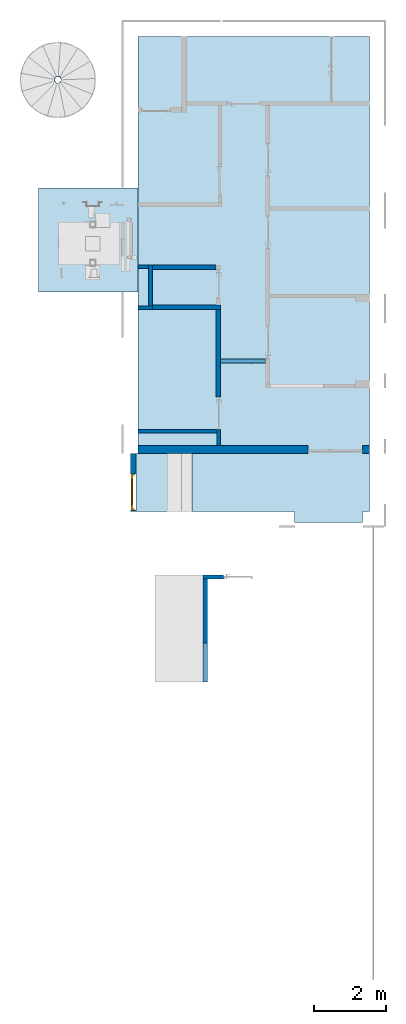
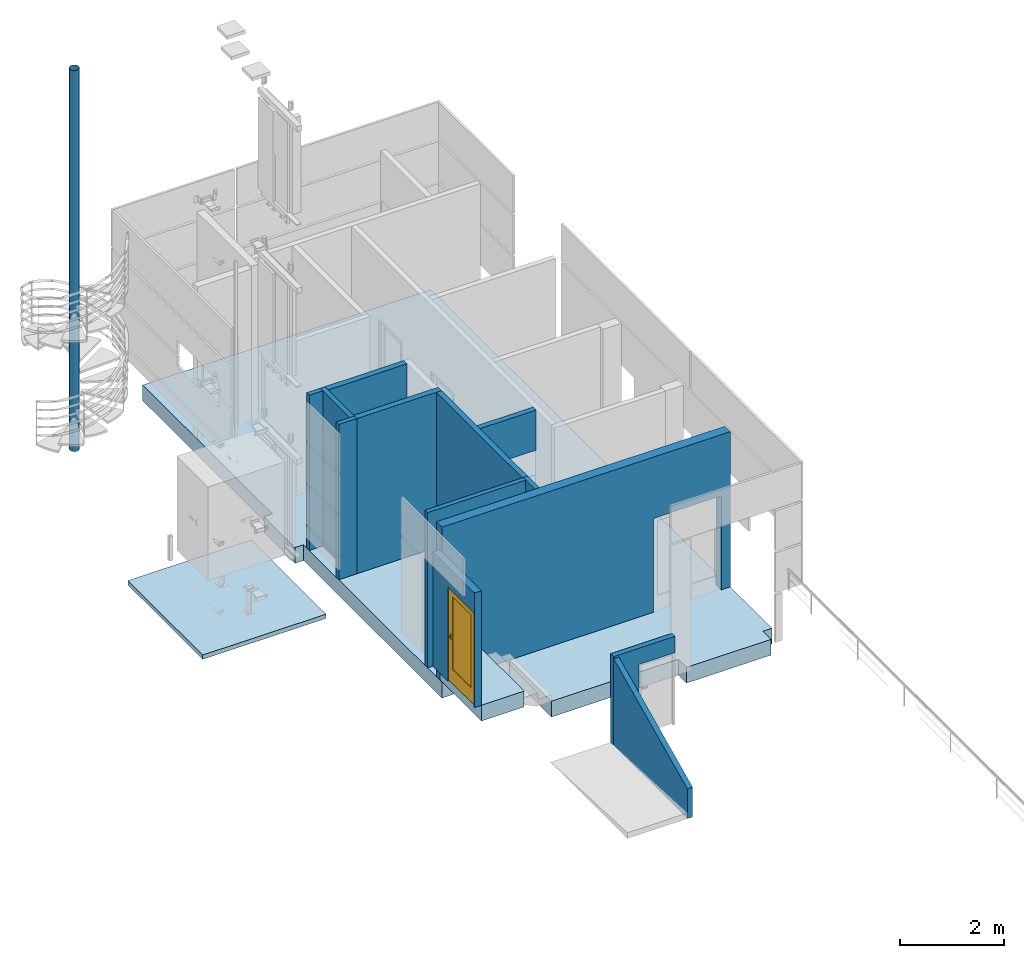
# One storey, part 1 of 15: 13 walls, 3 slabs, 1 column, 1 door, 11 openings.
"""IFC2X3 building model written with IfcOpenShell, lengths in millimetres."""

from ifc_helpers import new_model, entity, si_unit, converted_unit, derived_unit, direction, frame, frame_2d, origin, place, context, subcontext, project, spatial, polyline, rectangle, hollow_circle, outline, extrude, clip, halfspace, faceted_brep, source, transform, mapped, material, material_list, layer, layer_set, layer_usage, type_object, type_shapes, element, fill, save


model = new_model("IFC2X3")

# Units and contexts
model_context = context("Model", 3, precision=0.01, world=origin(), true_north=direction((6.12303176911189e-17, 1.0)))
body_context = subcontext(model_context, "Body", "Model", "MODEL_VIEW")
ifc_project = project(units=[si_unit("LENGTHUNIT", "METRE", prefix="MILLI"), si_unit("AREAUNIT", "SQUARE_METRE"), si_unit("VOLUMEUNIT", "CUBIC_METRE"), converted_unit("PLANEANGLEUNIT", "DEGREE", entity("IfcRatioMeasure", 0.0174532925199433), si_unit("PLANEANGLEUNIT", "RADIAN"), dimensions=[0, 0, 0, 0, 0, 0, 0]), si_unit("MASSUNIT", "GRAM", prefix="KILO"), derived_unit("MASSDENSITYUNIT", [(si_unit("MASSUNIT", "GRAM", prefix="KILO"), 1), (si_unit("LENGTHUNIT", "METRE"), -3)]), si_unit("TIMEUNIT", "SECOND"), si_unit("FREQUENCYUNIT", "HERTZ"), si_unit("THERMODYNAMICTEMPERATUREUNIT", "DEGREE_CELSIUS"), derived_unit("THERMALTRANSMITTANCEUNIT", [(si_unit("MASSUNIT", "GRAM", prefix="KILO"), 1), (si_unit("THERMODYNAMICTEMPERATUREUNIT", "KELVIN"), -1), (si_unit("TIMEUNIT", "SECOND"), -3)]), derived_unit("VOLUMETRICFLOWRATEUNIT", [(si_unit("LENGTHUNIT", "METRE"), 3), (si_unit("TIMEUNIT", "SECOND"), -1)]), si_unit("ELECTRICCURRENTUNIT", "AMPERE"), si_unit("ELECTRICVOLTAGEUNIT", "VOLT"), si_unit("POWERUNIT", "WATT"), si_unit("FORCEUNIT", "NEWTON", prefix="KILO"), si_unit("ILLUMINANCEUNIT", "LUX"), si_unit("LUMINOUSFLUXUNIT", "LUMEN"), si_unit("LUMINOUSINTENSITYUNIT", "CANDELA"), derived_unit("USERDEFINED", [(si_unit("MASSUNIT", "GRAM", prefix="KILO"), -1), (si_unit("LENGTHUNIT", "METRE"), -2), (si_unit("TIMEUNIT", "SECOND"), 3), (si_unit("LUMINOUSFLUXUNIT", "LUMEN"), 1)]), derived_unit("LINEARVELOCITYUNIT", [(si_unit("LENGTHUNIT", "METRE"), 1), (si_unit("TIMEUNIT", "SECOND"), -1)]), si_unit("PRESSUREUNIT", "PASCAL"), derived_unit("USERDEFINED", [(si_unit("LENGTHUNIT", "METRE"), -2), (si_unit("MASSUNIT", "GRAM", prefix="KILO"), 1), (si_unit("TIMEUNIT", "SECOND"), -2)])], contexts=[model_context])

# Site, building, storey
site_placement = place(None, frame((-151.875543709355, 2715.0, 0.0)))
site = spatial("IfcSite", under=ifc_project, at=site_placement, Name="Surface", CompositionType="ELEMENT")
building_placement = place(site_placement, origin())
building = spatial("IfcBuilding", under=site, at=building_placement, CompositionType="ELEMENT")
storey_placement = place(building_placement, frame((0.0, 0.0, -135.0)))
storey = spatial("IfcBuildingStorey", under=building, at=storey_placement, Name="uus 1 korrus", CompositionType="ELEMENT", Elevation=-134.99999999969)

# Column
ifc_material_1 = material(Name="Metal - Steel - ASTM A53")
column_type = type_object("IfcColumnType", Name="D200", PredefinedType="COLUMN")
shared_shape_1 = source(origin(), body_context, "Body", "SweptSolid", [
    extrude(hollow_circle(Radius=99.9999999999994, WallThickness=6.05234374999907, at=frame_2d((-2.55787167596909e-15, 4.5019790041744e-13), x_axis=(1.0, 0.0))), frame((0.0, 0.0, -135.0)), (0.0, 0.0, 1.0), 8934.99999999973),
])
type_shapes(column_type, [shared_shape_1])
column_placement = place(storey_placement, frame((29794.6975216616, 25117.4690984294, 135.0), z_axis=(0.0, 0.0, 1.0), x_axis=(-0.990352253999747, -0.138572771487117, 0.0)))
element("IfcColumn", 1, at=column_placement, inside=storey, type_object=column_type, material=ifc_material_1, Name="Pipe-Column:D200", ObjectType="D200", context=body_context, shape_type="MappedRepresentation", body=[
    mapped(shared_shape_1, transform((0.0, 0.0, 0.0), scale=1.0)),
])

# Slabs
ifc_material_2 = material(Name="Viimistlus_kelder")
ifc_layer_1 = layer(ifc_material_2, 20.0)
ifc_material_3 = material(Name="Betoon")
ifc_layer_2 = layer(ifc_material_3, 100.0)
ifc_material_4 = material(Name="__Soojustus EPS")
ifc_layer_3 = layer(ifc_material_4, 150.0)
ifc_material_5 = material(Name="Aluspinnas")
ifc_layer_4 = layer(ifc_material_5, 100.0)
ifc_layer_set_1 = layer_set([ifc_layer_1, ifc_layer_2, ifc_layer_3, ifc_layer_4], Name="Floor:P-2.1_Esimese korruse põrand juurdeehitusel")
ifc_layer_usage_1 = layer_usage(ifc_layer_set_1, "AXIS3", "POSITIVE", 0.0)
slab_1_placement = place(storey_placement, origin())
element("IfcSlab", 2, at=slab_1_placement, inside=storey, material=ifc_layer_usage_1, Name="Floor:P-2.1_Esimese korruse põrand juurdeehitusel", ObjectType="Floor:P-2.1_Esimese korruse põrand juurdeehitusel", PredefinedType="FLOOR", context=body_context, shape_type="SweptSolid", body=[
    extrude(outline(polyline([(2716.28571063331, -2792.85714285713), (3916.2857104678, -2792.85714285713), (3916.2857104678, -2602.85714285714), (8896.28573702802, -2602.85714285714), (8896.28573702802, 3792.14285714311), (-4203.71428953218, 3792.14285714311), (-4203.71428953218, 3592.14285714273), (-4517.71428953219, 3592.14285714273), (-4517.71428953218, 1717.14285714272), (-4203.71428953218, 1717.14285714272), (-4203.71428953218, -1102.85714285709), (-2603.71428953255, -1102.85714285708), (-2603.71428953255, -2602.85714285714), (2716.28571063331, -2602.85714285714), (2716.28571063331, -2792.85714285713)])), frame((34604.4734110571, 17413.7142895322, 0.0), z_axis=(0.0, 0.0, -1.0), x_axis=(0.0, 1.0, 0.0)), (0.0, 0.0, 1.0), 370.0),
])
ifc_layer_usage_2 = layer_usage(ifc_layer_set_1, "AXIS3", "POSITIVE", 0.0)
slab_2_placement = place(storey_placement, origin())
element("IfcSlab", 3, at=slab_2_placement, inside=storey, material=ifc_layer_usage_2, Name="Floor:P-2.1_Esimese korruse põrand juurdeehitusel", ObjectType="Floor:P-2.1_Esimese korruse põrand juurdeehitusel", PredefinedType="FLOOR", context=body_context, shape_type="SweptSolid", body=[
    extrude(rectangle(XDim=1600.00000000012, YDim=949.993077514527, at=frame_2d((1.08002495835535e-12, 0.0), x_axis=(1.0, 0.0))), frame((32426.6128069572, 14010.0, 450.0), z_axis=(0.0, 0.0, -1.0), x_axis=(0.0, 1.0, 0.0)), (0.0, 0.0, 1.0), 370.0),
])
ifc_layer_5 = layer(ifc_material_3, 100.0)
ifc_layer_set_2 = layer_set([ifc_layer_5], Name="Floor:Lifti põrand")
ifc_layer_usage_3 = layer_usage(ifc_layer_set_2, "AXIS3", "POSITIVE", 0.0)
slab_3_placement = place(storey_placement, origin())
element("IfcSlab", 4, at=slab_3_placement, inside=storey, material=ifc_layer_usage_3, Name="Floor:Lifti põrand", ObjectType="Floor:Lifti põrand", PredefinedType="FLOOR", context=body_context, shape_type="SweptSolid", body=[
    extrude(rectangle(XDim=2878.0, YDim=2738.99850106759, at=frame_2d((0.0, 2.1600499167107e-12), x_axis=(1.0, 0.0))), frame((30632.1170176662, 20700.0, -1100.0), z_axis=(0.0, 0.0, -1.0), x_axis=(0.0, 1.0, 0.0)), (0.0, 0.0, 1.0), 100.0),
])

# Wall, openings
ifc_material_6 = material(Name="__Kips GN13_tava")
ifc_layer_6 = layer(ifc_material_6, 12.5)
ifc_layer_7 = layer(ifc_material_6, 12.5)
ifc_layer_8 = layer(ifc_material_4, 66.0)
ifc_layer_9 = layer(ifc_material_6, 12.5)
ifc_layer_10 = layer(ifc_material_6, 12.5)
ifc_layer_set_3 = layer_set([ifc_layer_6, ifc_layer_7, ifc_layer_8, ifc_layer_9, ifc_layer_10], Name="Basic Wall:SS-3_Kipssein tava ruumide vahel")
ifc_layer_usage_4 = layer_usage(ifc_layer_set_3, "AXIS2", "NEGATIVE", 58.0)
wall_type_1 = type_object("IfcWallType", Name="Basic Wall:SS-3_Kipssein tava ruumide vahel", PredefinedType="STANDARD", material=ifc_layer_set_3)
wall_1_placement = place(storey_placement, frame((34223.0849816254, 15470.0, 0.0), z_axis=(0.0, 0.0, 1.0), x_axis=(0.0, 1.0, 0.0)))
wall_1 = element("IfcWallStandardCase", 5, at=wall_1_placement, inside=storey, type_object=wall_type_1, material=ifc_layer_usage_4, Name="Basic Wall:SS-3_Kipssein tava ruumide vahel", ObjectType="Basic Wall:SS-3_Kipssein tava ruumide vahel", context=body_context, shape_type="SweptSolid", body=[
    extrude(rectangle(XDim=3307.97100308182, YDim=116.0, at=frame_2d((1653.98550154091, 3.94351218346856e-13), x_axis=(-1.0, 0.0))), origin(), (0.0, 0.0, 1.0), 3640.0),
])
opening_1_placement = place(wall_1_placement, origin())
element("IfcOpeningElement", 6, at=opening_1_placement, cuts=wall_1, Name="Basic Wall:SS-3_Kipssein tava ruumide vahel", ObjectType="Opening", context=body_context, shape_type="SweptSolid", body=[
    extrude(rectangle(XDim=2099.99999999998, YDim=116.0, at=frame_2d((0.0, 1.13686837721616e-13), x_axis=(0.0, 1.0))), frame((1890.61788269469, -1307.74749360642, 1050.0), z_axis=(0.0, 1.0, 0.0), x_axis=(1.0, 0.0, 0.0)), (0.0, 0.0, 1.0), 1250.0),
])
opening_2_placement = place(wall_1_placement, origin())
element("IfcOpeningElement", 7, at=opening_2_placement, cuts=wall_1, Name="Basic Wall:SS-3_Kipssein tava ruumide vahel", ObjectType="Opening", context=body_context, shape_type="SweptSolid", body=[
    extrude(rectangle(XDim=599.999999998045, YDim=116.0, at=frame_2d((0.0, -1.4210854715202e-13), x_axis=(0.0, 1.0))), frame((1890.61788269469, -1307.74749360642, 2400.0), z_axis=(0.0, 1.0, 0.0), x_axis=(1.0, 0.0, 0.0)), (0.0, 0.0, 1.0), 1250.0),
])
opening_3_placement = place(wall_1_placement, frame((900.0, 58.0, 0.0)))
element("IfcOpeningElement", 8, at=opening_3_placement, cuts=wall_1, Name="Ühepoolsed:SU-02.:1", ObjectType="Opening", context=body_context, shape_type="SweptSolid", body=[
    extrude(rectangle(XDim=2099.99999999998, YDim=900.0, at=frame_2d((1049.99999999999, 450.0), x_axis=(1.0, 0.0))), frame((0.0, 0.0, 0.0), z_axis=(0.0, -1.0, 0.0), x_axis=(0.0, 0.0, 1.0)), (0.0, 0.0, 1.0), 116.0),
])

ifc_layer_usage_5 = layer_usage(ifc_layer_set_3, "AXIS2", "NEGATIVE", 58.0)
wall_2_placement = place(storey_placement, frame((35530.8324752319, 17360.6178826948, 2700.0), z_axis=(0.0, 0.0, 1.0), x_axis=(-1.0, 0.0, 0.0)))
wall_2 = element("IfcWallStandardCase", 9, at=wall_2_placement, inside=storey, type_object=wall_type_1, material=ifc_layer_usage_5, Name="Basic Wall:SS-3_Kipssein tava ruumide vahel", ObjectType="Basic Wall:SS-3_Kipssein tava ruumide vahel", context=body_context, shape_type="SweptSolid", body=[
    extrude(rectangle(XDim=1249.74749360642, YDim=116.0, at=frame_2d((624.873746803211, -1.06581410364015e-14), x_axis=(-1.0, 0.0))), origin(), (0.0, 0.0, 1.0), 940.000000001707),
])
opening_4_placement = place(wall_2_placement, frame((0.0, -58.0, -2700.0)))
element("IfcOpeningElement", 10, at=opening_4_placement, cuts=wall_2, Name="Kahepoolsed:SU-24:1", ObjectType="Opening", context=body_context, shape_type="SweptSolid", body=[
    extrude(rectangle(XDim=2099.99999999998, YDim=1250.0, at=frame_2d((1049.99999999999, 625.000000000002), x_axis=(1.0, 0.0))), frame((0.0, 0.0, 0.0), z_axis=(0.0, 1.0, 0.0), x_axis=(0.0, 0.0, 1.0)), (0.0, 0.0, 1.0), 116.0),
])
opening_5_placement = place(wall_2_placement, frame((0.0, -58.0, -600.0)))
element("IfcOpeningElement", 11, at=opening_5_placement, cuts=wall_2, Name="Ühepoolsed2:SU24_ülemine:1", ObjectType="Opening", context=body_context, shape_type="SweptSolid", body=[
    extrude(rectangle(XDim=599.999999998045, YDim=1250.0, at=frame_2d((299.999999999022, 625.000000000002), x_axis=(1.0, 0.0))), frame((0.0, 0.0, 0.0), z_axis=(0.0, 1.0, 0.0), x_axis=(0.0, 0.0, 1.0)), (0.0, 0.0, 1.0), 116.0),
])

# Wall, opening
ifc_layer_usage_6 = layer_usage(ifc_layer_set_3, "AXIS2", "POSITIVE", -58.0)
wall_3_placement = place(storey_placement, frame((33802.30075757, 11392.0, 0.0)))
wall_3 = element("IfcWallStandardCase", 12, at=wall_3_placement, inside=storey, type_object=wall_type_1, material=ifc_layer_usage_6, Name="Basic Wall:SS-3_Kipssein tava ruumide vahel", ObjectType="Basic Wall:SS-3_Kipssein tava ruumide vahel", context=body_context, shape_type="SweptSolid", body=[
    extrude(rectangle(XDim=1364.31551062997, YDim=116.0, at=frame_2d((682.157755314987, -1.06581410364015e-14), x_axis=(-1.0, 0.0))), origin(), (0.0, 0.0, 1.0), 2080.0),
])
opening_6_placement = place(wall_3_placement, frame((564.315510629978, -58.0, 0.0)))
element("IfcOpeningElement", 13, at=opening_6_placement, cuts=wall_3, Name="Ühepoolsed:SU-20:1", ObjectType="Opening", context=body_context, shape_type="SweptSolid", body=[
    extrude(rectangle(XDim=1699.99999999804, YDim=800.0, at=frame_2d((849.999999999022, 400.0), x_axis=(1.0, 0.0))), frame((0.0, 0.0, 0.0), z_axis=(0.0, 1.0, 0.0), x_axis=(0.0, 0.0, 1.0)), (0.0, 0.0, 1.0), 116.0),
])

# Wall
ifc_layer_usage_7 = layer_usage(ifc_layer_set_3, "AXIS2", "POSITIVE", -58.0)
wall_4_placement = place(storey_placement, frame((33860.30075757, 8498.10409546, 0.0), z_axis=(0.0, 0.0, 1.0), x_axis=(0.0, 1.0, 0.0)))
element("IfcWallStandardCase", 14, at=wall_4_placement, inside=storey, type_object=wall_type_1, material=ifc_layer_usage_7, Name="Basic Wall:SS-3_Kipssein tava ruumide vahel", ObjectType="Basic Wall:SS-3_Kipssein tava ruumide vahel", context=body_context, shape_type="Clipping", body=[
    clip(extrude(rectangle(XDim=2835.89590454, YDim=116.0, at=frame_2d((1417.94795227, -2.16715534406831e-13), x_axis=(-1.0, 0.0))), origin(), (0.0, 0.0, 1.0), 2030.14352716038), halfspace(frame((0.0, -58.0, 695.999680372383), z_axis=(-0.425693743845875, 0.0, 0.904867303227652), x_axis=(0.0, 1.0, 0.0)), False)),
])

# Wall, opening, door
ifc_material_7 = material(Name="_Klaas - must, peegelkile")
ifc_layer_11 = layer(ifc_material_7, 152.0)
ifc_layer_set_4 = layer_set([ifc_layer_11], Name="Basic Wall:Klaassein")
ifc_layer_usage_8 = layer_usage(ifc_layer_set_4, "AXIS2", "POSITIVE", -76.0)
wall_type_2 = type_object("IfcWallType", Name="Basic Wall:Klaassein", PredefinedType="STANDARD", material=ifc_layer_set_4)
wall_5_placement = place(storey_placement, frame((31875.6162682, 14810.0, 450.0), z_axis=(0.0, 0.0, 1.0), x_axis=(0.0, -1.0, 0.0)))
wall_5 = element("IfcWallStandardCase", 15, at=wall_5_placement, inside=storey, type_object=wall_type_2, material=ifc_layer_usage_8, Name="Basic Wall:Klaassein", ObjectType="Basic Wall:Klaassein", context=body_context, shape_type="SweptSolid", body=[
    extrude(rectangle(XDim=1599.99999999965, YDim=152.0, at=frame_2d((799.999999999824, 0.0), x_axis=(-1.0, 0.0))), origin(), (0.0, 0.0, 1.0), 2684.99999999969),
])
opening_7_placement = place(wall_5_placement, frame((1570.0, 76.0, 0.0)))
opening_7 = element("IfcOpeningElement", 16, at=opening_7_placement, cuts=wall_5, Name="Ühepoolsed:1000x2200_välisuks klaasiga:1", ObjectType="Opening", context=body_context, shape_type="SweptSolid", body=[
    extrude(rectangle(XDim=2199.99999999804, YDim=1000.0, at=frame_2d((1099.99999999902, 500.0), x_axis=(1.0, 0.0))), frame((0.0, 0.0, 0.0), z_axis=(0.0, -1.0, 0.0), x_axis=(0.0, 0.0, 1.0)), (0.0, 0.0, 1.0), 152.0),
])
ifc_material_8 = material(Name="_Alumiiniumprofiil - must")
ifc_material_9 = material(Name="Steel/Aluminium")
ifc_material_10 = material(Name="Glass")
ifc_material_list_1 = material_list([ifc_material_8, ifc_material_9, ifc_material_10])
ifc_material_list_2 = material_list([ifc_material_8, ifc_material_9, ifc_material_10])
door_style = type_object("IfcDoorStyle", Name="1000x2200_välisuks klaasiga", ConstructionType="NOTDEFINED", OperationType="FOLDING_TO_LEFT", ParameterTakesPrecedence=False, Sizeable=False, material=ifc_material_list_2)
shared_shape_2 = source(origin(), body_context, "Body", "Brep", [
    faceted_brep([(900.0, 42.0, 1112.5), (805.0, 42.0, 1112.5), (805.0, 37.0, 1112.5), (925.0, 37.0, 1112.5), (925.0, 80.0, 1112.5), (900.0, 80.0, 1112.5), (900.0, 42.0, 1087.5), (900.0, 80.0, 1087.5), (925.0, 80.0, 1087.5), (925.0, 37.0, 1087.5), (805.0, 37.0, 1087.5), (805.0, 42.0, 1087.5)], [[[0, 1, 2, 3, 4, 5]], [[6, 7, 8, 9, 10, 11]], [[5, 7, 6, 0]], [[4, 8, 7, 5]], [[3, 9, 8, 4]], [[2, 10, 9, 3]], [[1, 11, 10, 2]], [[0, 6, 11, 1]]]),
    faceted_brep([(887.500000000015, 80.0, 1137.5), (937.500000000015, 80.0, 1137.5), (937.500000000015, 82.0, 1137.5), (887.500000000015, 82.0, 1137.5), (887.500000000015, 80.0, 1017.5), (887.500000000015, 82.0, 1017.5), (937.500000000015, 82.0, 1017.5), (937.500000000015, 80.0, 1017.5)], [[[0, 1, 2, 3]], [[4, 5, 6, 7]], [[3, 5, 4, 0]], [[2, 6, 5, 3]], [[1, 7, 6, 2]], [[0, 4, 7, 1]]]),
    faceted_brep([(900.0, 172.0, 1112.5), (900.0, 134.0, 1112.5), (925.0, 134.0, 1112.5), (925.0, 177.0, 1112.5), (805.0, 177.0, 1112.5), (805.0, 172.0, 1112.5), (900.0, 172.0, 1087.5), (805.0, 172.0, 1087.5), (805.0, 177.0, 1087.5), (925.0, 177.0, 1087.5), (925.0, 134.0, 1087.5), (900.0, 134.0, 1087.5)], [[[0, 1, 2, 3, 4, 5]], [[6, 7, 8, 9, 10, 11]], [[1, 0, 6, 11]], [[2, 1, 11, 10]], [[3, 2, 10, 9]], [[4, 3, 9, 8]], [[5, 4, 8, 7]], [[0, 5, 7, 6]]]),
    faceted_brep([(887.500000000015, 134.0, 1137.5), (887.500000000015, 132.0, 1137.5), (937.500000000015, 132.0, 1137.5), (937.500000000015, 134.0, 1137.5), (887.500000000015, 134.0, 1017.5), (937.500000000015, 134.0, 1017.5), (937.500000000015, 132.0, 1017.5), (887.500000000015, 132.0, 1017.5)], [[[0, 1, 2, 3]], [[4, 5, 6, 7]], [[1, 0, 4, 7]], [[2, 1, 7, 6]], [[3, 2, 6, 5]], [[0, 3, 5, 4]]]),
    faceted_brep([(0.0, 42.0, 0.0), (0.0, 132.0, 0.0), (25.0, 132.0, 0.0), (25.0, 82.0, 0.0), (40.0, 82.0, 0.0), (40.0, 42.0, 0.0), (40.0, 42.0, 2160.0), (960.0, 42.0, 2160.0), (960.0, 42.0, 0.0), (1000.0, 42.0, 0.0), (1000.0, 42.0, 2200.0), (0.0, 42.0, 2200.0), (40.0, 82.0, 2160.0), (25.0, 82.0, 2175.0), (975.0, 82.0, 2175.0), (975.0, 82.0, 0.0), (960.0, 82.0, 0.0), (960.0, 82.0, 2160.0), (25.0, 132.0, 2175.0), (0.0, 132.0, 2200.0), (1000.0, 132.0, 2200.0), (1000.0, 132.0, 0.0), (975.0, 132.0, 0.0), (975.0, 132.0, 2175.0)], [[[0, 1, 2, 3, 4, 5]], [[5, 6, 7, 8, 9, 10, 11, 0]], [[4, 12, 6, 5]], [[3, 13, 14, 15, 16, 17, 12, 4]], [[2, 18, 13, 3]], [[1, 19, 20, 21, 22, 23, 18, 2]], [[0, 11, 19, 1]], [[9, 21, 20, 10]], [[8, 16, 15, 22, 21, 9]], [[7, 17, 16, 8]], [[14, 23, 22, 15]], [[6, 12, 17, 7]], [[13, 18, 23, 14]], [[10, 20, 19, 11]]]),
    faceted_brep([(140.0, 97.0, 350.0), (860.0, 97.0, 350.0), (860.0, 97.0, 2060.0), (140.0, 97.0, 2060.0), (140.0, 117.0, 350.0), (140.0, 117.0, 2060.0), (860.0, 117.0, 2060.0), (860.0, 117.0, 350.0)], [[[0, 1, 2, 3]], [[4, 5, 6, 7]], [[3, 5, 4, 0]], [[2, 6, 5, 3]], [[1, 7, 6, 2]], [[0, 4, 7, 1]]]),
    faceted_brep([(25.0, 82.0, 20.0), (975.0, 82.0, 20.0), (975.0, 82.0, 2175.0), (25.0, 82.0, 2175.0), (860.0, 82.0, 350.0), (140.0, 82.0, 350.0), (140.0, 82.0, 2060.0), (860.0, 82.0, 2060.0), (25.0, 132.0, 20.0), (25.0, 132.0, 2175.0), (975.0, 132.0, 2175.0), (975.0, 132.0, 20.0), (860.0, 132.0, 2060.0), (140.0, 132.0, 2060.0), (140.0, 132.0, 350.0), (860.0, 132.0, 350.0)], [[[0, 1, 2, 3], [4, 5, 6, 7]], [[8, 9, 10, 11], [12, 13, 14, 15]], [[3, 9, 8, 0]], [[2, 10, 9, 3]], [[1, 11, 10, 2]], [[0, 8, 11, 1]], [[12, 15, 4, 7]], [[15, 14, 5, 4]], [[14, 13, 6, 5]], [[7, 6, 13, 12]]]),
])
type_shapes(door_style, [shared_shape_2])
door_placement = place(opening_7_placement, frame((0.0, 0.0, 0.0), z_axis=(0.0, 0.0, 1.0), x_axis=(-1.0, 0.0, 0.0)))
door = element("IfcDoor", 17, at=door_placement, inside=storey, type_object=door_style, material=ifc_material_list_1, Name="Ühepoolsed:1000x2200_välisuks klaasiga", ObjectType="1000x2200_välisuks klaasiga", OverallHeight=2199.99999999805, OverallWidth=1000.0, context=body_context, shape_type="MappedRepresentation", body=[
    mapped(shared_shape_2, transform((0.0, 0.0, 0.0), scale=1.0)),
])
fill(opening_7, door)

# Wall, opening
ifc_layer_12 = layer(ifc_material_6, 12.5)
ifc_layer_13 = layer(ifc_material_6, 12.5)
ifc_layer_14 = layer(ifc_material_4, 66.0)
ifc_material_11 = material(Name="__Kips GKB_niiskuskindel")
ifc_layer_15 = layer(ifc_material_11, 12.5)
ifc_layer_16 = layer(ifc_material_11, 12.5)
ifc_material_12 = material(Name="Keraamiline_plaat")
ifc_layer_17 = layer(ifc_material_12, 10.0)
ifc_layer_set_5 = layer_set([ifc_layer_12, ifc_layer_13, ifc_layer_14, ifc_layer_15, ifc_layer_16, ifc_layer_17], Name="Basic Wall:SS-4_Kipssein tava ja niiske ruumi vahel")
ifc_layer_usage_9 = layer_usage(ifc_layer_set_5, "AXIS2", "POSITIVE", -63.0)
wall_type_3 = type_object("IfcWallType", Name="Basic Wall:SS-4_Kipssein tava ja niiske ruumi vahel", PredefinedType="STANDARD", material=ifc_layer_set_5)
wall_6_placement = place(storey_placement, frame((34155.3085887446, 19946.9258834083, 0.0), z_axis=(0.0, 0.0, 1.0), x_axis=(-1.0, 0.0, 0.0)))
wall_6 = element("IfcWallStandardCase", 18, at=wall_6_placement, inside=storey, type_object=wall_type_3, material=ifc_layer_usage_9, Name="Basic Wall:SS-4_Kipssein tava ja niiske ruumi vahel", ObjectType="Basic Wall:SS-4_Kipssein tava ja niiske ruumi vahel", context=body_context, shape_type="SweptSolid", body=[
    extrude(rectangle(XDim=1753.69232054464, YDim=125.999999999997, at=frame_2d((876.846160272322, 4.9382720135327e-13), x_axis=(-1.0, 0.0))), origin(), (0.0, 0.0, 1.0), 3640.00000000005),
])
opening_8_placement = place(wall_6_placement, origin())
element("IfcOpeningElement", 19, at=opening_8_placement, cuts=wall_6, Name="Basic Wall:SS-4_Kipssein tava ja niiske ruumi vahel", ObjectType="Opening", context=body_context, shape_type="SweptSolid", body=[
    extrude(rectangle(XDim=2099.99999999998, YDim=126.000000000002, at=frame_2d((-2.16715534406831e-12, 0.0), x_axis=(0.0, 1.0))), frame((-63.0, 63.0, 1050.0), z_axis=(0.0, 1.0, 0.0), x_axis=(-1.0, 0.0, 0.0)), (0.0, 0.0, 1.0), 800.0),
])

# Wall
ifc_layer_usage_10 = layer_usage(ifc_layer_set_5, "AXIS2", "NEGATIVE", 63.0)
wall_7_placement = place(storey_placement, frame((34281.0849816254, 18840.9710030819, 0.0), z_axis=(0.0, 0.0, 1.0), x_axis=(-1.0, 0.0, 0.0)))
element("IfcWallStandardCase", 20, at=wall_7_placement, inside=storey, type_object=wall_type_3, material=ifc_layer_usage_10, Name="Basic Wall:SS-4_Kipssein tava ja niiske ruumi vahel", ObjectType="Basic Wall:SS-4_Kipssein tava ja niiske ruumi vahel", context=body_context, shape_type="SweptSolid", body=[
    extrude(rectangle(XDim=1879.51101340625, YDim=126.000000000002, at=frame_2d((939.755506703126, 6.85673740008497e-13), x_axis=(-1.0, 0.0))), origin(), (0.0, 0.0, 1.0), 3640.00000000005),
])

# Wall, opening
ifc_material_13 = material(Name="__Hall krohv")
ifc_layer_18 = layer(ifc_material_13, 10.0)
ifc_material_14 = material(Name="__Kergblokk")
ifc_layer_19 = layer(ifc_material_14, 190.0)
ifc_layer_20 = layer(ifc_material_13, 10.0)
ifc_layer_set_6 = layer_set([ifc_layer_18, ifc_layer_19, ifc_layer_20], Name="Basic Wall:SS-2.1_Columbia kivi EI-60 sein")
ifc_layer_usage_11 = layer_usage(ifc_layer_set_6, "AXIS2", "NEGATIVE", 105.0)
wall_type_4 = type_object("IfcWallType", Name="Basic Wall:SS-2.1_Columbia kivi EI-60 sein", PredefinedType="STANDARD", material=ifc_layer_set_6)
wall_8_placement = place(storey_placement, frame((32001.6162682, 14915.0, 0.0)))
wall_8 = element("IfcWallStandardCase", 21, at=wall_8_placement, inside=storey, type_object=wall_type_4, material=ifc_layer_usage_11, Name="Basic Wall:SS-2.1_Columbia kivi EI-60 sein", ObjectType="Basic Wall:SS-2.1_Columbia kivi EI-60 sein", context=body_context, shape_type="SweptSolid", body=[
    extrude(rectangle(XDim=6395.00000000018, YDim=210.0, at=frame_2d((3197.50000000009, -1.98951966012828e-13), x_axis=(-1.0, 0.0))), origin(), (0.0, 0.0, 1.0), 3640.0),
])
opening_9_placement = place(wall_8_placement, frame((6194.97965710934, 105.0, 0.0)))
element("IfcOpeningElement", 22, at=opening_9_placement, cuts=wall_8, Name="Kahepoolsed:SU-13:1", ObjectType="Opening", context=body_context, shape_type="SweptSolid", body=[
    extrude(rectangle(XDim=2199.99999999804, YDim=1500.0, at=frame_2d((1099.99999999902, 750.0), x_axis=(1.0, 0.0))), frame((0.0, 0.0, 0.0), z_axis=(0.0, -1.0, 0.0), x_axis=(0.0, 0.0, 1.0)), (0.0, 0.0, 1.0), 210.0),
])

ifc_material_15 = material(Name="__Helehall")
ifc_layer_21 = layer(ifc_material_15, 10.0)
ifc_layer_22 = layer(ifc_material_14, 90.0)
ifc_layer_set_7 = layer_set([ifc_layer_21, ifc_layer_22], Name="Basic Wall:SS-6_Šahti sein EI-60")
ifc_layer_usage_12 = layer_usage(ifc_layer_set_7, "AXIS2", "POSITIVE", -50.0)
wall_type_5 = type_object("IfcWallType", Name="Basic Wall:SS-6_Šahti sein EI-60", PredefinedType="STANDARD", material=ifc_layer_set_7)
wall_9_placement = place(storey_placement, frame((34231.6162682, 15020.0, 0.0), z_axis=(0.0, 0.0, 1.0), x_axis=(0.0, 1.0, 0.0)))
wall_9 = element("IfcWallStandardCase", 23, at=wall_9_placement, inside=storey, type_object=wall_type_5, material=ifc_layer_usage_12, Name="Basic Wall:SS-6_Šahti sein EI-60", ObjectType="Basic Wall:SS-6_Šahti sein EI-60", context=body_context, shape_type="SweptSolid", body=[
    extrude(rectangle(XDim=449.999999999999, YDim=100.000000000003, at=frame_2d((225.0, 0.0), x_axis=(-1.0, 0.0))), origin(), (0.0, 0.0, 1.0), 3639.99999999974),
])
opening_10_placement = place(wall_9_placement, origin())
element("IfcOpeningElement", 24, at=opening_10_placement, cuts=wall_9, Name="Basic Wall:SS-6_Šahti sein EI-60", ObjectType="Opening", context=body_context, shape_type="SweptSolid", body=[
    extrude(rectangle(XDim=2099.99999999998, YDim=900.000000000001, at=frame_2d((1.13686837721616e-13, 1.08002495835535e-12), x_axis=(1.0, 0.0))), frame((900.0, -1457.46871342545, 1050.0), z_axis=(0.0, 1.0, 0.0), x_axis=(0.0, 0.0, 1.0)), (0.0, 0.0, 1.0), 3048.0),
])

ifc_layer_usage_13 = layer_usage(ifc_layer_set_7, "AXIS2", "POSITIVE", -50.0)
wall_10_placement = place(storey_placement, frame((34181.6162682, 15420.0, 0.0), z_axis=(0.0, 0.0, 1.0), x_axis=(-1.0, 0.0, 0.0)))
wall_10 = element("IfcWallStandardCase", 25, at=wall_10_placement, inside=storey, type_object=wall_type_5, material=ifc_layer_usage_13, Name="Basic Wall:SS-6_Šahti sein EI-60", ObjectType="Basic Wall:SS-6_Šahti sein EI-60", context=body_context, shape_type="SweptSolid", body=[
    extrude(rectangle(XDim=2180.0, YDim=99.9999999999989, at=frame_2d((1090.0, 3.05533376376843e-13), x_axis=(-1.0, 0.0))), origin(), (0.0, 0.0, 1.0), 3639.99999999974),
])
opening_11_placement = place(wall_10_placement, origin())
element("IfcOpeningElement", 26, at=opening_11_placement, cuts=wall_10, Name="Basic Wall:SS-6_Šahti sein EI-60", ObjectType="Opening", context=body_context, shape_type="SweptSolid", body=[
    extrude(rectangle(XDim=2099.99999999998, YDim=116.0, at=frame_2d((-4.33075797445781e-12, 0.0), x_axis=(0.0, 1.0))), frame((-41.468713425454, -950.0, 1050.0), z_axis=(0.0, 1.0, 0.0), x_axis=(-1.0, 0.0, 0.0)), (0.0, 0.0, 1.0), 899.999999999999),
])

# Walls
ifc_layer_usage_14 = layer_usage(ifc_layer_set_7, "AXIS2", "POSITIVE", -50.0)
wall_11_placement = place(storey_placement, frame((32001.6162682, 18827.9710030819, 0.0)))
element("IfcWallStandardCase", 27, at=wall_11_placement, inside=storey, type_object=wall_type_5, material=ifc_layer_usage_14, Name="Basic Wall:SS-6_Šahti sein EI-60", ObjectType="Basic Wall:SS-6_Šahti sein EI-60", context=body_context, shape_type="SweptSolid", body=[
    extrude(rectangle(XDim=399.957700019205, YDim=99.9999999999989, at=frame_2d((199.978850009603, 0.0), x_axis=(-1.0, 0.0))), origin(), (0.0, 0.0, 1.0), 3640.0),
])
ifc_layer_usage_15 = layer_usage(ifc_layer_set_7, "AXIS2", "POSITIVE", -50.0)
wall_12_placement = place(storey_placement, frame((32351.6162682, 18877.9710030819, 0.0), z_axis=(0.0, 0.0, 1.0), x_axis=(0.0, 1.0, 0.0)))
element("IfcWallStandardCase", 28, at=wall_12_placement, inside=storey, type_object=wall_type_5, material=ifc_layer_usage_15, Name="Basic Wall:SS-6_Šahti sein EI-60", ObjectType="Basic Wall:SS-6_Šahti sein EI-60", context=body_context, shape_type="SweptSolid", body=[
    extrude(rectangle(XDim=1131.95488032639, YDim=100.000000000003, at=frame_2d((565.977440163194, 0.0), x_axis=(-1.0, 0.0))), origin(), (0.0, 0.0, 1.0), 3640.0),
])
ifc_layer_usage_16 = layer_usage(ifc_layer_set_7, "AXIS2", "POSITIVE", -50.0)
wall_13_placement = place(storey_placement, frame((32301.6162682, 19959.9258834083, 0.0), z_axis=(0.0, 0.0, 1.0), x_axis=(-1.0, 0.0, 0.0)))
element("IfcWallStandardCase", 29, at=wall_13_placement, inside=storey, type_object=wall_type_5, material=ifc_layer_usage_16, Name="Basic Wall:SS-6_Šahti sein EI-60", ObjectType="Basic Wall:SS-6_Šahti sein EI-60", context=body_context, shape_type="SweptSolid", body=[
    extrude(rectangle(XDim=300.000000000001, YDim=100.000000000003, at=frame_2d((150.000000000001, 0.0), x_axis=(-1.0, 0.0))), origin(), (0.0, 0.0, 1.0), 3640.0),
])

save(model, "model.ifc")
